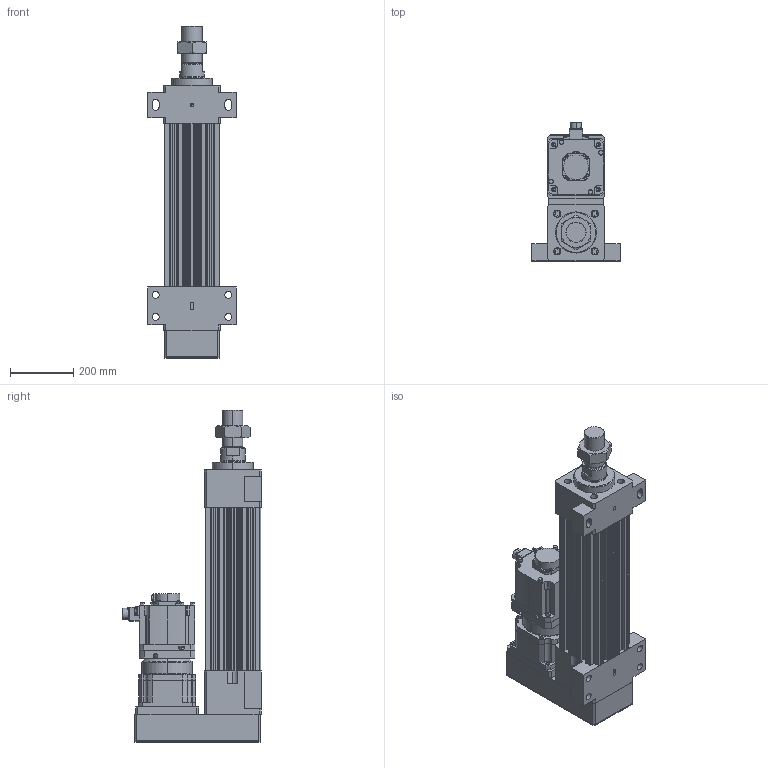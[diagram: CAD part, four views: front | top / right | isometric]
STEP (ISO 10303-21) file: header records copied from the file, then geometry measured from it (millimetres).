
FILE_DESCRIPTION (( 'STEP AP203' ), '1' );
FILE_NAME ('HES180HS-P200-W050G00-M-FFB.STEP', '2023-02-01T06:26:13', ( 'tms' ), ( '' ), 'SwSTEP 2.0', 'SolidWorks 2013', '' );
FILE_SCHEMA (( 'CONFIG_CONTROL_DESIGN' ));
Length unit declared in the file: millimetre
Products named in the file (9): HES180HS-P200-W050G00-M-FFB; P1301600001; HES180-P200-G180-FFB; HG-SR502; HES180 ROD M ST200; AB1801; P0403600401; M64X2.0P; AB180-003[HG-SR702B]
Assembly tree (8 placements, depth 3):
  HES180HS-P200-W050G00-M-FFB
    HES180-P200-G180-FFB
    HES180 ROD M ST200
    M64X2.0P
    AB180-003[HG-SR702B]
      AB1801
      P1301600001
      P0403600401
    HG-SR502
Bounding box: 280 x 438.85 x 1052 mm (x, y, z)
Volume: 25924870.9 mm3; surface area: 2151690.5 mm2
Topology: 4 solids, 19 shells, 1446 faces, 3761 edges, 2443 vertices
Faces by surface type: cylinder 668, plane 567, cone 144, bspline 63, torus 4
Entity records: 53114 total; most frequent: CARTESIAN_POINT 16078, DIRECTION 7777, ORIENTED_EDGE 7426, EDGE_CURVE 3737, AXIS2_PLACEMENT_3D 2922, VERTEX_POINT 2443, VECTOR 1933, LINE 1933
